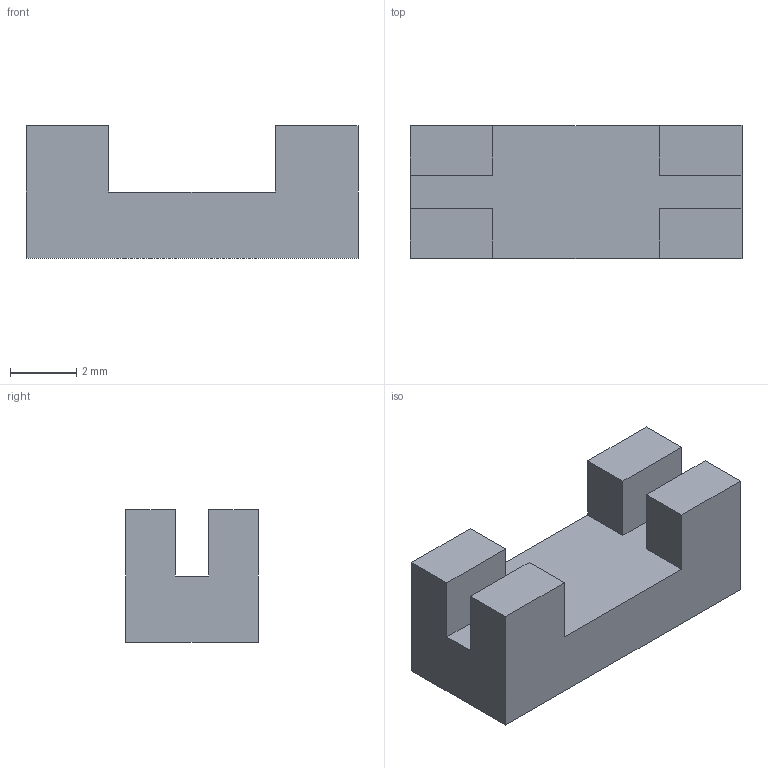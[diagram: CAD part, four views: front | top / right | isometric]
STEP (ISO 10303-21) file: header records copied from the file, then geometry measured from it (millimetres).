
FILE_DESCRIPTION(('FreeCAD Model'),'2;1');
FILE_NAME( 'C:/WHu/3D-Printer/Designs-WHU/FT5/Safety processor/NTC-Mount.step', '2017-09-24T12:06:49',('Author'),(''), 'Open CASCADE STEP processor 6.8','FreeCAD','Unknown');
FILE_SCHEMA(('AUTOMOTIVE_DESIGN_CC2 { 1 2 10303 214 -1 1 5 4 }'));
Length unit declared in the file: millimetre
Products named in the file (2): ASSEMBLY; NTC-Mount
Assembly tree (1 placements, depth 2):
  ASSEMBLY
    NTC-Mount
Bounding box: 10 x 4 x 4 mm (x, y, z)
Volume: 110 mm3; surface area: 200 mm2
Topology: 1 solids, 1 shells, 18 faces, 48 edges, 32 vertices
Faces by surface type: plane 18
Entity records: 1215 total; most frequent: CARTESIAN_POINT 196, DIRECTION 184, LINE 144, VECTOR 144, ORIENTED_EDGE 96, PCURVE 96, DEFINITIONAL_REPRESENTATION 96, EDGE_CURVE 48
